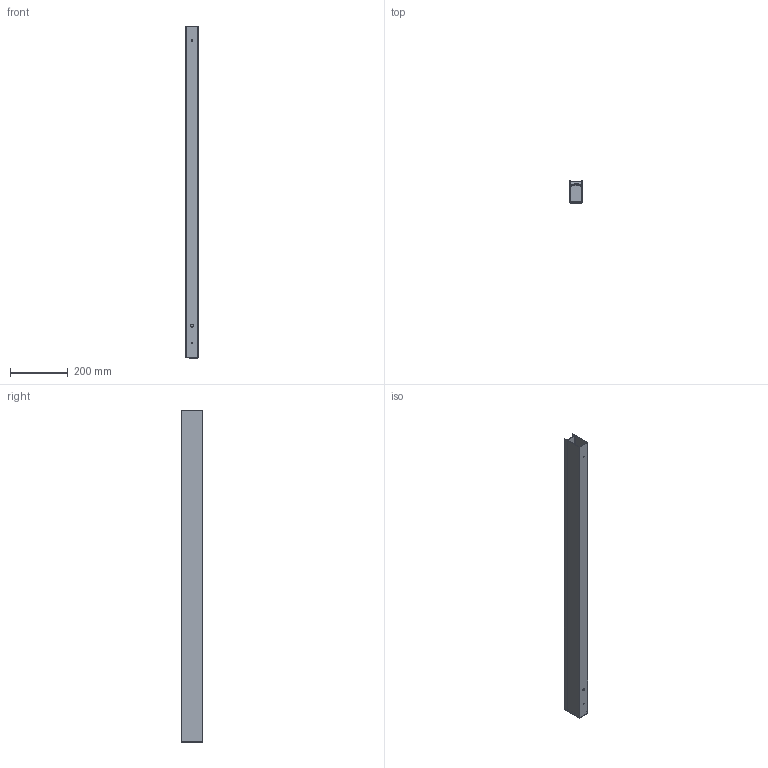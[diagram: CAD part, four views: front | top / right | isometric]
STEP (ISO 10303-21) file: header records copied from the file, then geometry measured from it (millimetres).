
FILE_DESCRIPTION (( 'STEP AP214' ), '1' );
FILE_NAME ('LINE RP-RF 24 INICIAL.STEP', '2017-08-23T09:45:14', ( 'Ofitecnic3' ), ( 'Microsoft' ), 'SwSTEP 2.0', 'SolidWorks 2016', '' );
FILE_SCHEMA (( 'AUTOMOTIVE_DESIGN' ));
Length unit declared in the file: millimetre
Products named in the file (4): Perfil_extrusion (LineR)-BIM_LR2016-1150; LINE RP-RF 24 INICIAL; Difusor plástico-BIM_LED-1150mm; Tapa (LineR)-BIM
Assembly tree (3 placements, depth 2):
  LINE RP-RF 24 INICIAL
    Perfil_extrusion (LineR)-BIM_LR2016-1150
    Tapa (LineR)-BIM
    Difusor plástico-BIM_LED-1150mm
Bounding box: 42.5 x 74.75 x 1152.5 mm (x, y, z)
Volume: 494217.4 mm3; surface area: 556269.8 mm2
Topology: 3 solids, 3 shells, 237 faces, 592 edges, 370 vertices
Faces by surface type: plane 108, cylinder 86, bspline 41, sphere 2
Entity records: 8677 total; most frequent: CARTESIAN_POINT 3301, ORIENTED_EDGE 1180, DIRECTION 967, EDGE_CURVE 590, VERTEX_POINT 370, VECTOR 355, LINE 355, AXIS2_PLACEMENT_3D 306
